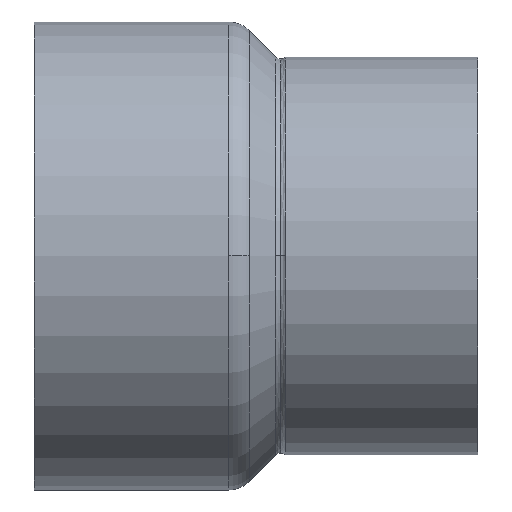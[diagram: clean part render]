
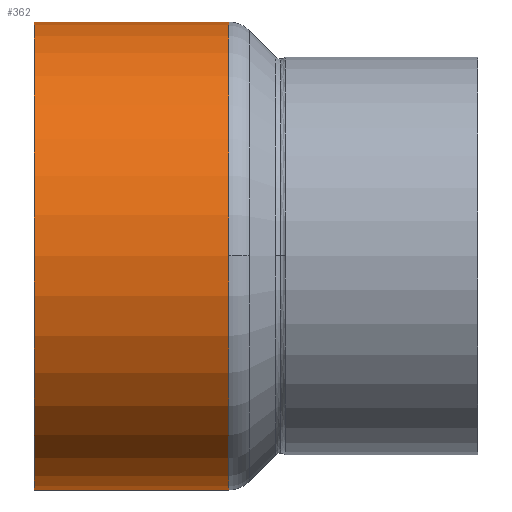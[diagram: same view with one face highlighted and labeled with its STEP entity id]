
A CAD part, top view. The second image highlights one B-rep face of the part: STEP entity #362.
In plain terms, the highlighted cylindrical face has radius 40.25 mm (diameter 80.5 mm), a partial arc.
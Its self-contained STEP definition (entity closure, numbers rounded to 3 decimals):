
#312=CARTESIAN_POINT('',(16.704,0.0,0.0));
#313=DIRECTION('',(1.0,0.0,0.0));
#314=DIRECTION('',(0.0,1.0,0.0));
#315=AXIS2_PLACEMENT_3D('',#312,#313,#314);
#316=CYLINDRICAL_SURFACE('',#315,40.25);
#317=CARTESIAN_POINT('',(0.,40.25,0.0));
#318=VERTEX_POINT('',#317);
#319=CARTESIAN_POINT('',(33.407,40.25,0.0));
#320=VERTEX_POINT('',#319);
#321=CARTESIAN_POINT('',(0.,40.25,0.0));
#322=DIRECTION('',(1.0,0.0,0.0));
#323=VECTOR('',#322,33.407);
#324=LINE('',#321,#323);
#325=EDGE_CURVE('',#318,#320,#324,.T.);
#326=ORIENTED_EDGE('',*,*,#325,.F.);
#327=CARTESIAN_POINT('',(0.,-40.25,0.));
#328=VERTEX_POINT('',#327);
#329=CARTESIAN_POINT('',(0.,0.0,0.0));
#330=DIRECTION('',(1.0,0.0,0.0));
#331=DIRECTION('',(0.0,1.0,0.0));
#332=AXIS2_PLACEMENT_3D('',#329,#330,#331);
#333=CIRCLE('',#332,40.25);
#334=EDGE_CURVE('',#318,#328,#333,.T.);
#335=ORIENTED_EDGE('',*,*,#334,.T.);
#336=CARTESIAN_POINT('',(33.407,-40.25,0.));
#337=VERTEX_POINT('',#336);
#338=CARTESIAN_POINT('',(33.407,-40.25,0.));
#339=DIRECTION('',(-1.0,0.0,0.0));
#340=VECTOR('',#339,33.407);
#341=LINE('',#338,#340);
#342=EDGE_CURVE('',#337,#328,#341,.T.);
#343=ORIENTED_EDGE('',*,*,#342,.F.);
#344=CARTESIAN_POINT('',(33.407,0.,40.25));
#345=VERTEX_POINT('',#344);
#346=CARTESIAN_POINT('',(33.407,0.0,0.0));
#347=DIRECTION('',(1.0,0.0,0.0));
#348=DIRECTION('',(0.0,1.0,0.0));
#349=AXIS2_PLACEMENT_3D('',#346,#347,#348);
#350=CIRCLE('',#349,40.25);
#351=EDGE_CURVE('',#345,#337,#350,.T.);
#352=ORIENTED_EDGE('',*,*,#351,.F.);
#353=CARTESIAN_POINT('',(33.407,0.0,0.0));
#354=DIRECTION('',(1.0,0.0,0.0));
#355=DIRECTION('',(0.0,1.0,0.0));
#356=AXIS2_PLACEMENT_3D('',#353,#354,#355);
#357=CIRCLE('',#356,40.25);
#358=EDGE_CURVE('',#320,#345,#357,.T.);
#359=ORIENTED_EDGE('',*,*,#358,.F.);
#360=EDGE_LOOP('',(#326,#335,#343,#352,#359));
#361=FACE_OUTER_BOUND('',#360,.T.);
#362=ADVANCED_FACE('',(#361),#316,.T.);
